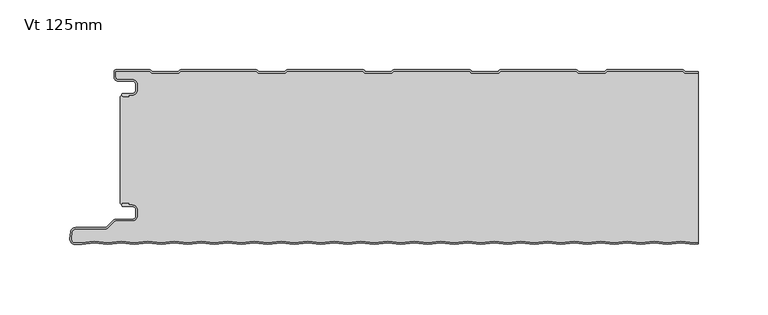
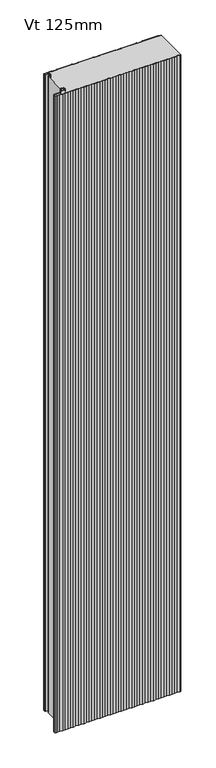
"""IFC4 building model written with IfcOpenShell, lengths in millimetres: plate geometry, KIP-MEX-KSS-1067-R19-CP-Vt-MR_SL : Vt 125mm."""

from ifc_helpers import new_model, si_unit, point, frame, frame_2d, origin, origin_with_axes, place, context, project, spatial, polyline, circle_curve, trimmed, segment, composite_curve, outline, extrude, source, transform, mapped, element, save
from ifc_brep_helpers import plane_surface, cylinder_surface, revolved_surface, advanced_brep


def vt_125mm_50f7fd7f(model_context):
    return source(origin(), model_context, "Body", "SolidModel", [
        advanced_brep(
        [(-204.468691, -17.0015159, 2400.0), (-205.4686883, -18.0015191, 2400.0), (-204.468691, -19.0015105, 2400.0), (-200.4684874, -19.0015105, 2400.0), (-200.4684874, -18.0015159, 2400.0), (-197.7762776, -18.0015159, 2400.0), (-194.4762819, -14.7015202, 2400.0), (-194.4762819, -10.301529, 2400.0), (-197.7762774, -7.0015335, 2400.0), (-208.1962563, -7.0015335, 2400.0), (-209.9662505, -5.2315393, 2400.0), (-209.9662505, -0.9999916, 2400.0), (-185.4659738, -0.9999916, 2400.0), (-184.0803312, -2.2002307, 2400.0), (-164.7051649, -2.2002307, 2400.0), (-163.319532, -1.0, 2400.0), (-109.2661166, -1.0, 2400.0), (-107.8804836, -2.2002307, 2400.0), (-88.5053173, -2.2002307, 2400.0), (-87.1196844, -1.0, 2400.0), (-33.066269, -1.0, 2400.0), (-31.680636, -2.2002307, 2400.0), (-12.3054697, -2.2002307, 2400.0), (-10.9198368, -1.0, 2400.0), (43.1335786, -1.0, 2400.0), (44.5192116, -2.2002307, 2400.0), (63.8943779, -2.2002307, 2400.0), (65.2800108, -1.0, 2400.0), (119.3334262, -1.0, 2400.0), (120.7190592, -2.2002307, 2400.0), (140.0942255, -2.2002307, 2400.0), (141.4798584, -1.0, 2400.0), (195.5332738, -1.0, 2400.0), (196.9189068, -2.2002307, 2400.0), (206.4999998, -2.2002307, 2400.0), (206.4999998, -1.2002307, 2400.0), (197.2917872, -1.2002307, 2400.0), (196.3007396, -0.3417885, 2400.0), (195.3841227, 0.0, 2400.0), (141.6290096, 0.0, 2400.0), (140.7123927, -0.3417885, 2400.0), (139.7213451, -1.2002307, 2400.0), (121.0919396, -1.2002307, 2400.0), (120.100892, -0.3417885, 2400.0), (119.1842751, 0.0, 2400.0), (65.429162, 0.0, 2400.0), (64.5125451, -0.3417885, 2400.0), (63.5214975, -1.2002307, 2400.0), (44.892092, -1.2002307, 2400.0), (43.9010444, -0.3417885, 2400.0), (42.9844275, 0.0, 2400.0), (-10.7706856, 0.0, 2400.0), (-11.6873025, -0.3417885, 2400.0), (-12.6783501, -1.2002307, 2400.0), (-31.3077556, -1.2002307, 2400.0), (-32.2988032, -0.3417885, 2400.0), (-33.2154201, 0.0, 2400.0), (-86.9705332, 0.0, 2400.0), (-87.8871501, -0.3417885, 2400.0), (-88.8781977, -1.2002307, 2400.0), (-107.5076032, -1.2002307, 2400.0), (-108.4986508, -0.3417885, 2400.0), (-109.4152677, 0.0, 2400.0), (-163.1703808, 0.0, 2400.0), (-164.0869977, -0.3417885, 2400.0), (-165.0780453, -1.2002307, 2400.0), (-183.7074508, -1.2002307, 2400.0), (-184.6984984, -0.3417885, 2400.0), (-185.6152067, 0.0, 2400.0), (-209.5662543, 8.4e-06, 2400.0), (-210.9662505, -1.3999878, 2400.0), (-210.9662505, -5.2315393, 2400.0), (-208.1962563, -8.0015335, 2400.0), (-197.7762774, -8.0015335, 2400.0), (-195.4762819, -10.301529, 2400.0), (-195.4762819, -14.7015202, 2400.0), (-197.7762776, -17.0015159, 2400.0), (-204.468691, -17.0015159, 0.0), (-197.7762776, -17.0015159, 0.0), (-195.4762819, -14.7015202, 0.0), (-195.4762819, -10.301529, 0.0), (-197.7762774, -8.0015335, 0.0), (-208.1962563, -8.0015335, 0.0), (-210.9662505, -5.2315393, 0.0), (-210.9662505, -1.3999878, 0.0), (-209.5662543, 8.4e-06, 0.0), (-185.6151153, 8.4e-06, 0.0), (-184.6984984, -0.3417885, 0.0), (-183.7074508, -1.2002307, 0.0), (-165.0780453, -1.2002307, 0.0), (-164.0869977, -0.3417885, 0.0), (-163.1703808, 0.0, 0.0), (-109.4152677, 0.0, 0.0), (-108.4986508, -0.3417885, 0.0), (-107.5076032, -1.2002307, 0.0), (-88.8781977, -1.2002307, 0.0), (-87.8871501, -0.3417885, 0.0), (-86.9705332, 0.0, 0.0), (-33.2154201, 0.0, 0.0), (-32.2988032, -0.3417885, 0.0), (-31.3077556, -1.2002307, 0.0), (-12.6783501, -1.2002307, 0.0), (-11.6873025, -0.3417885, 0.0), (-10.7706856, 0.0, 0.0), (42.9844275, 0.0, 0.0), (43.9010444, -0.3417885, 0.0), (44.892092, -1.2002307, 0.0), (63.5214975, -1.2002307, 0.0), (64.5125451, -0.3417885, 0.0), (65.429162, 0.0, 0.0), (119.1842751, 0.0, 0.0), (120.100892, -0.3417885, 0.0), (121.0919396, -1.2002307, 0.0), (139.7213451, -1.2002307, 0.0), (140.7123927, -0.3417885, 0.0), (141.6290096, 0.0, 0.0), (195.3841227, 0.0, 0.0), (196.3007396, -0.3417885, 0.0), (197.2917872, -1.2002307, 0.0), (206.4999998, -1.2002307, 0.0), (206.4999998, -2.2002307, 0.0), (196.9189068, -2.2002307, 0.0), (195.5332738, -1.0, 0.0), (141.4798584, -1.0, 0.0), (140.0942255, -2.2002307, 0.0), (120.7190592, -2.2002307, 0.0), (119.3334262, -1.0, 0.0), (65.2800108, -1.0, 0.0), (63.8943779, -2.2002307, 0.0), (44.5192116, -2.2002307, 0.0), (43.1335786, -1.0, 0.0), (-10.9198368, -1.0, 0.0), (-12.3054697, -2.2002307, 0.0), (-31.680636, -2.2002307, 0.0), (-33.066269, -1.0, 0.0), (-87.1196844, -1.0, 0.0), (-88.5053173, -2.2002307, 0.0), (-107.8804836, -2.2002307, 0.0), (-109.2661166, -1.0, 0.0), (-163.319532, -1.0, 0.0), (-164.7051649, -2.2002307, 0.0), (-184.0803312, -2.2002307, 0.0), (-185.4659738, -0.9999916, 0.0), (-209.9662505, -0.9999916, 0.0), (-209.9662505, -5.2315393, 0.0), (-208.1962563, -7.0015335, 0.0), (-197.7762774, -7.0015335, 0.0), (-194.4762819, -10.301529, 0.0), (-194.4762819, -14.7015202, 0.0), (-197.7762776, -18.0015159, 0.0), (-200.4684874, -18.0015159, 0.0), (-200.4684874, -19.0015105, 0.0), (-204.468691, -19.0015105, 0.0), (-205.4686882, -18.0015192, 0.0)],
        [
            (0, 1, circle_curve(frame((-204.468691, -18.0015132, 2400.0), z_axis=(0.0, 0.0, 1.0), x_axis=(1.0, 0.0, 0.0)), 0.9999973)),
            (1, 2, circle_curve(frame((-204.468691, -18.0015133, 2400.0), z_axis=(0.0, 0.0, 1.0), x_axis=(1.0, 0.0, 0.0)), 0.9999972)),
            (2, 3),
            (3, 4),
            (4, 5),
            (5, 6, circle_curve(frame((-197.7762776, -14.7015202, 2400.0), z_axis=(0.0, 0.0, 1.0), x_axis=(1.0, 0.0, 0.0)), 3.2999957)),
            (6, 7),
            (7, 8, circle_curve(frame((-197.7762774, -10.301529, 2400.0), z_axis=(0.0, 0.0, 1.0), x_axis=(1.0, 0.0, 0.0)), 3.2999955)),
            (8, 9),
            (9, 10, circle_curve(frame((-208.1962563, -5.2315393, 2400.0), z_axis=(0.0, 0.0, -1.0), x_axis=(1.0, 0.0, 0.0)), 1.7699942)),
            (10, 11),
            (11, 12),
            (12, 13),
            (13, 14),
            (14, 15),
            (15, 16),
            (16, 17),
            (17, 18),
            (18, 19),
            (19, 20),
            (20, 21),
            (21, 22),
            (22, 23),
            (23, 24),
            (24, 25),
            (25, 26),
            (26, 27),
            (27, 28),
            (28, 29),
            (29, 30),
            (30, 31),
            (31, 32),
            (32, 33),
            (33, 34),
            (34, 35),
            (35, 36),
            (36, 37),
            (37, 38, circle_curve(frame((195.3841227, -1.3999972, 2400.0), z_axis=(0.0, 0.0, 1.0), x_axis=(1.0, 0.0, 0.0)), 1.3999972)),
            (38, 39),
            (39, 40, circle_curve(frame((141.6290096, -1.3999972, 2400.0), z_axis=(0.0, 0.0, 1.0), x_axis=(1.0, 0.0, 0.0)), 1.3999972)),
            (40, 41),
            (41, 42),
            (42, 43),
            (43, 44, circle_curve(frame((119.1842751, -1.3999972, 2400.0), z_axis=(0.0, 0.0, 1.0), x_axis=(1.0, 0.0, 0.0)), 1.3999972)),
            (44, 45),
            (45, 46, circle_curve(frame((65.429162, -1.3999972, 2400.0), z_axis=(0.0, 0.0, 1.0), x_axis=(1.0, 0.0, 0.0)), 1.3999972)),
            (46, 47),
            (47, 48),
            (48, 49),
            (49, 50, circle_curve(frame((42.9844275, -1.3999972, 2400.0), z_axis=(0.0, 0.0, 1.0), x_axis=(1.0, 0.0, 0.0)), 1.3999972)),
            (50, 51),
            (51, 52, circle_curve(frame((-10.7706856, -1.3999972, 2400.0), z_axis=(0.0, 0.0, 1.0), x_axis=(1.0, 0.0, 0.0)), 1.3999972)),
            (52, 53),
            (53, 54),
            (54, 55),
            (55, 56, circle_curve(frame((-33.2154201, -1.3999972, 2400.0), z_axis=(0.0, 0.0, 1.0), x_axis=(1.0, 0.0, 0.0)), 1.3999972)),
            (56, 57),
            (57, 58, circle_curve(frame((-86.9705332, -1.3999972, 2400.0), z_axis=(0.0, 0.0, 1.0), x_axis=(1.0, 0.0, 0.0)), 1.3999972)),
            (58, 59),
            (59, 60),
            (60, 61),
            (61, 62, circle_curve(frame((-109.4152677, -1.3999972, 2400.0), z_axis=(0.0, 0.0, 1.0), x_axis=(1.0, 0.0, 0.0)), 1.3999972)),
            (62, 63),
            (63, 64, circle_curve(frame((-163.1703808, -1.3999972, 2400.0), z_axis=(0.0, 0.0, 1.0), x_axis=(1.0, 0.0, 0.0)), 1.3999972)),
            (64, 65),
            (65, 66),
            (66, 67),
            (67, 68, circle_curve(frame((-185.6151153, -1.3999972, 2400.0), z_axis=(0.0, 0.0, 1.0), x_axis=(1.0, 0.0, 0.0)), 1.3999972)),
            (68, 69),
            (69, 70, circle_curve(frame((-209.5662543, -1.3999878, 2400.0), z_axis=(0.0, 0.0, 1.0), x_axis=(1.0, 0.0, 0.0)), 1.3999962)),
            (70, 71),
            (71, 72, circle_curve(frame((-208.1962563, -5.2315393, 2400.0), z_axis=(0.0, 0.0, 1.0), x_axis=(1.0, 0.0, 0.0)), 2.7699942)),
            (72, 73),
            (73, 74, circle_curve(frame((-197.7762774, -10.301529, 2400.0), z_axis=(0.0, 0.0, -1.0), x_axis=(1.0, 0.0, 0.0)), 2.2999955)),
            (74, 75),
            (75, 76, circle_curve(frame((-197.7762776, -14.7015202, 2400.0), z_axis=(0.0, 0.0, -1.0), x_axis=(1.0, 0.0, 0.0)), 2.2999957)),
            (76, 0),
            (77, 78),
            (78, 79, circle_curve(frame((-197.7762776, -14.7015202, 0.0), z_axis=(0.0, 0.0, 1.0), x_axis=(1.0, 0.0, 0.0)), 2.2999957)),
            (79, 80),
            (80, 81, circle_curve(frame((-197.7762774, -10.301529, 0.0), z_axis=(0.0, 0.0, 1.0), x_axis=(1.0, 0.0, 0.0)), 2.2999955)),
            (81, 82),
            (82, 83, circle_curve(frame((-208.1962563, -5.2315393, 0.0), z_axis=(0.0, 0.0, -1.0), x_axis=(1.0, 0.0, 0.0)), 2.7699942)),
            (83, 84),
            (84, 85, circle_curve(frame((-209.5662543, -1.3999878, 0.0), z_axis=(0.0, 0.0, -1.0), x_axis=(1.0, 0.0, 0.0)), 1.3999962)),
            (85, 86),
            (86, 87, circle_curve(frame((-185.6151153, -1.3999972, 0.0), z_axis=(0.0, 0.0, -1.0), x_axis=(1.0, 0.0, 0.0)), 1.3999972)),
            (87, 88),
            (88, 89),
            (89, 90),
            (90, 91, circle_curve(frame((-163.1703808, -1.3999972, 0.0), z_axis=(0.0, 0.0, -1.0), x_axis=(1.0, 0.0, 0.0)), 1.3999972)),
            (91, 92),
            (92, 93, circle_curve(frame((-109.4152677, -1.3999972, 0.0), z_axis=(0.0, 0.0, -1.0), x_axis=(1.0, 0.0, 0.0)), 1.3999972)),
            (93, 94),
            (94, 95),
            (95, 96),
            (96, 97, circle_curve(frame((-86.9705332, -1.3999972, 0.0), z_axis=(0.0, 0.0, -1.0), x_axis=(1.0, 0.0, 0.0)), 1.3999972)),
            (97, 98),
            (98, 99, circle_curve(frame((-33.2154201, -1.3999972, 0.0), z_axis=(0.0, 0.0, -1.0), x_axis=(1.0, 0.0, 0.0)), 1.3999972)),
            (99, 100),
            (100, 101),
            (101, 102),
            (102, 103, circle_curve(frame((-10.7706856, -1.3999972, 0.0), z_axis=(0.0, 0.0, -1.0), x_axis=(1.0, 0.0, 0.0)), 1.3999972)),
            (103, 104),
            (104, 105, circle_curve(frame((42.9844275, -1.3999972, 0.0), z_axis=(0.0, 0.0, -1.0), x_axis=(1.0, 0.0, 0.0)), 1.3999972)),
            (105, 106),
            (106, 107),
            (107, 108),
            (108, 109, circle_curve(frame((65.429162, -1.3999972, 0.0), z_axis=(0.0, 0.0, -1.0), x_axis=(1.0, 0.0, 0.0)), 1.3999972)),
            (109, 110),
            (110, 111, circle_curve(frame((119.1842751, -1.3999972, 0.0), z_axis=(0.0, 0.0, -1.0), x_axis=(1.0, 0.0, 0.0)), 1.3999972)),
            (111, 112),
            (112, 113),
            (113, 114),
            (114, 115, circle_curve(frame((141.6290096, -1.3999972, 0.0), z_axis=(0.0, 0.0, -1.0), x_axis=(1.0, 0.0, 0.0)), 1.3999972)),
            (115, 116),
            (116, 117, circle_curve(frame((195.3841227, -1.3999972, 0.0), z_axis=(0.0, 0.0, -1.0), x_axis=(1.0, 0.0, 0.0)), 1.3999972)),
            (117, 118),
            (118, 119),
            (119, 120),
            (120, 121),
            (121, 122),
            (122, 123),
            (123, 124),
            (124, 125),
            (125, 126),
            (126, 127),
            (127, 128),
            (128, 129),
            (129, 130),
            (130, 131),
            (131, 132),
            (132, 133),
            (133, 134),
            (134, 135),
            (135, 136),
            (136, 137),
            (137, 138),
            (138, 139),
            (139, 140),
            (140, 141),
            (141, 142),
            (142, 143),
            (143, 144),
            (144, 145, circle_curve(frame((-208.1962563, -5.2315393, 0.0), z_axis=(0.0, 0.0, 1.0), x_axis=(1.0, 0.0, 0.0)), 1.7699942)),
            (145, 146),
            (146, 147, circle_curve(frame((-197.7762774, -10.301529, 0.0), z_axis=(0.0, 0.0, -1.0), x_axis=(1.0, 0.0, 0.0)), 3.2999955)),
            (147, 148),
            (148, 149, circle_curve(frame((-197.7762776, -14.7015202, 0.0), z_axis=(0.0, 0.0, -1.0), x_axis=(1.0, 0.0, 0.0)), 3.2999957)),
            (149, 150),
            (150, 151),
            (151, 152),
            (152, 153, circle_curve(frame((-204.468691, -18.0015133, 0.0), z_axis=(0.0, 0.0, -1.0), x_axis=(1.0, 0.0, 0.0)), 0.9999972)),
            (153, 77, circle_curve(frame((-204.468691, -18.0015132, 0.0), z_axis=(0.0, 0.0, -1.0), x_axis=(1.0, 0.0, 0.0)), 0.9999973)),
            (76, 78),
            (77, 0),
            (75, 79),
            (74, 80),
            (73, 81),
            (72, 82),
            (71, 83),
            (70, 84),
            (69, 85),
            (68, 86),
            (67, 87),
            (66, 88),
            (65, 89),
            (64, 90),
            (63, 91),
            (62, 92),
            (61, 93),
            (60, 94),
            (59, 95),
            (58, 96),
            (57, 97),
            (56, 98),
            (55, 99),
            (54, 100),
            (53, 101),
            (52, 102),
            (51, 103),
            (50, 104),
            (49, 105),
            (48, 106),
            (47, 107),
            (46, 108),
            (45, 109),
            (44, 110),
            (43, 111),
            (42, 112),
            (41, 113),
            (40, 114),
            (39, 115),
            (38, 116),
            (37, 117),
            (36, 118),
            (35, 119),
            (120, 34),
            (33, 121),
            (32, 122),
            (31, 123),
            (30, 124),
            (29, 125),
            (28, 126),
            (27, 127),
            (26, 128),
            (25, 129),
            (24, 130),
            (23, 131),
            (22, 132),
            (21, 133),
            (20, 134),
            (19, 135),
            (18, 136),
            (17, 137),
            (16, 138),
            (15, 139),
            (14, 140),
            (13, 141),
            (12, 142),
            (11, 143),
            (10, 144),
            (9, 145),
            (8, 146),
            (7, 147),
            (6, 148),
            (5, 149),
            (4, 150),
            (3, 151),
            (2, 152),
            (1, 153),
        ],
        [
            plane_surface(frame((326.9000002, 0.0, 2400.0), z_axis=(0.0, 0.0, 1.0), x_axis=(0.0, 1.0, 0.0))),
            plane_surface(frame((326.9000002, 0.0, 0.0), z_axis=(0.0, 0.0, -1.0), x_axis=(0.0, 1.0, 0.0))),
            plane_surface(frame((-204.468691, -17.0015159, 2400.0), z_axis=(0.0, 1.0, 0.0), x_axis=(0.0, 0.0, -1.0))),
            revolved_surface(polyline([(-195.47628189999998, -14.7015202, 0.0), (-195.47628189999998, -14.7015202, 2400.0)]), (-197.7762776, -14.7015202, 2400.0), (0.0, 0.0, -1.0)),
            plane_surface(frame((-195.4762819, -14.7015202, 2400.0), z_axis=(-1.0, 0.0, 0.0), x_axis=(0.0, 0.0, -1.0))),
            revolved_surface(polyline([(-195.4762819, -10.301529, 0.0), (-195.4762819, -10.301529, 2400.0)]), (-197.7762774, -10.301529, 2400.0), (0.0, 0.0, -1.0)),
            plane_surface(frame((-197.7762774, -8.0015335, 2400.0), z_axis=(0.0, -1.0, 0.0), x_axis=(0.0, 0.0, -1.0))),
            cylinder_surface(frame((-208.1962563, -5.2315393, 2400.0), z_axis=(0.0, 0.0, 1.0), x_axis=(1.0, 0.0, 0.0)), 2.7699942),
            plane_surface(frame((-210.9662505, -5.2315393, 2400.0), z_axis=(-1.0, 0.0, 0.0), x_axis=(0.0, 0.0, -1.0))),
            cylinder_surface(frame((-209.5662543, -1.3999878, 2400.0), z_axis=(0.0, 0.0, 1.0), x_axis=(1.0, 0.0, 0.0)), 1.3999962),
            plane_surface(frame((-209.5662543, 8.4e-06, 2400.0), z_axis=(0.0, 1.0, 0.0), x_axis=(0.0, 0.0, -1.0))),
            cylinder_surface(frame((-185.6151153, -1.3999972, 2400.0), z_axis=(0.0, 0.0, 1.0), x_axis=(1.0, 0.0, 0.0)), 1.3999972),
            plane_surface(frame((-184.6984984, -0.3417885, 2400.0), z_axis=(0.6547276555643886, 0.755864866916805, 0.0), x_axis=(0.0, 0.0, -1.0))),
            plane_surface(frame((-174.3927481, -1.2002307, 2400.0), z_axis=(0.0, 1.0, 0.0), x_axis=(0.0, 0.0, -1.0))),
            plane_surface(frame((-165.0780453, -1.2002307, 2400.0), z_axis=(-0.6547276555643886, 0.755864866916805, 0.0), x_axis=(0.0, 0.0, -1.0))),
            cylinder_surface(frame((-163.1703808, -1.3999972, 2400.0), z_axis=(0.0, 0.0, 1.0), x_axis=(1.0, 0.0, 0.0)), 1.3999972),
            plane_surface(frame((-163.1703808, 0.0, 2400.0), z_axis=(0.0, 1.0, 0.0), x_axis=(0.0, 0.0, -1.0))),
            cylinder_surface(frame((-109.4152677, -1.3999972, 2400.0), z_axis=(0.0, 0.0, 1.0), x_axis=(1.0, 0.0, 0.0)), 1.3999972),
            plane_surface(frame((-108.4986508, -0.3417885, 2400.0), z_axis=(0.6547276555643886, 0.755864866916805, 0.0), x_axis=(0.0, 0.0, -1.0))),
            plane_surface(frame((-98.1929005, -1.2002307, 2400.0), z_axis=(0.0, 1.0, 0.0), x_axis=(0.0, 0.0, -1.0))),
            plane_surface(frame((-88.8781977, -1.2002307, 2400.0), z_axis=(-0.6547276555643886, 0.755864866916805, 0.0), x_axis=(0.0, 0.0, -1.0))),
            cylinder_surface(frame((-86.9705332, -1.3999972, 2400.0), z_axis=(0.0, 0.0, 1.0), x_axis=(1.0, 0.0, 0.0)), 1.3999972),
            plane_surface(frame((-86.9705332, 0.0, 2400.0), z_axis=(0.0, 1.0, 0.0), x_axis=(0.0, 0.0, -1.0))),
            cylinder_surface(frame((-33.2154201, -1.3999972, 2400.0), z_axis=(0.0, 0.0, 1.0), x_axis=(1.0, 0.0, 0.0)), 1.3999972),
            plane_surface(frame((-32.2988032, -0.3417885, 2400.0), z_axis=(0.6547276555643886, 0.755864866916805, 0.0), x_axis=(0.0, 0.0, -1.0))),
            plane_surface(frame((-21.9930529, -1.2002307, 2400.0), z_axis=(0.0, 1.0, 0.0), x_axis=(0.0, 0.0, -1.0))),
            plane_surface(frame((-12.6783501, -1.2002307, 2400.0), z_axis=(-0.6547276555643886, 0.755864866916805, 0.0), x_axis=(0.0, 0.0, -1.0))),
            cylinder_surface(frame((-10.7706856, -1.3999972, 2400.0), z_axis=(0.0, 0.0, 1.0), x_axis=(1.0, 0.0, 0.0)), 1.3999972),
            plane_surface(frame((-10.7706856, 0.0, 2400.0), z_axis=(0.0, 1.0, 0.0), x_axis=(0.0, 0.0, -1.0))),
            cylinder_surface(frame((42.9844275, -1.3999972, 2400.0), z_axis=(0.0, 0.0, 1.0), x_axis=(1.0, 0.0, 0.0)), 1.3999972),
            plane_surface(frame((43.9010444, -0.3417885, 2400.0), z_axis=(0.6547276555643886, 0.755864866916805, 0.0), x_axis=(0.0, 0.0, -1.0))),
            plane_surface(frame((54.2067947, -1.2002307, 2400.0), z_axis=(0.0, 1.0, 0.0), x_axis=(0.0, 0.0, -1.0))),
            plane_surface(frame((63.5214975, -1.2002307, 2400.0), z_axis=(-0.6547276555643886, 0.755864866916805, 0.0), x_axis=(0.0, 0.0, -1.0))),
            cylinder_surface(frame((65.429162, -1.3999972, 2400.0), z_axis=(0.0, 0.0, 1.0), x_axis=(1.0, 0.0, 0.0)), 1.3999972),
            plane_surface(frame((65.429162, 0.0, 2400.0), z_axis=(0.0, 1.0, 0.0), x_axis=(0.0, 0.0, -1.0))),
            cylinder_surface(frame((119.1842751, -1.3999972, 2400.0), z_axis=(0.0, 0.0, 1.0), x_axis=(1.0, 0.0, 0.0)), 1.3999972),
            plane_surface(frame((120.100892, -0.3417885, 2400.0), z_axis=(0.6547276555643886, 0.755864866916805, 0.0), x_axis=(0.0, 0.0, -1.0))),
            plane_surface(frame((130.4066423, -1.2002307, 2400.0), z_axis=(0.0, 1.0, 0.0), x_axis=(0.0, 0.0, -1.0))),
            plane_surface(frame((139.7213451, -1.2002307, 2400.0), z_axis=(-0.6547276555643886, 0.755864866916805, 0.0), x_axis=(0.0, 0.0, -1.0))),
            cylinder_surface(frame((141.6290096, -1.3999972, 2400.0), z_axis=(0.0, 0.0, 1.0), x_axis=(1.0, 0.0, 0.0)), 1.3999972),
            plane_surface(frame((141.6290096, 0.0, 2400.0), z_axis=(0.0, 1.0, 0.0), x_axis=(0.0, 0.0, -1.0))),
            cylinder_surface(frame((195.3841227, -1.3999972, 2400.0), z_axis=(0.0, 0.0, 1.0), x_axis=(1.0, 0.0, 0.0)), 1.3999972),
            plane_surface(frame((196.3007396, -0.3417885, 2400.0), z_axis=(0.6547276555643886, 0.755864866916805, 0.0), x_axis=(0.0, 0.0, -1.0))),
            plane_surface(frame((206.6064899, -1.2002307, 2400.0), z_axis=(0.0, 1.0, 0.0), x_axis=(0.0, 0.0, -1.0))),
            plane_surface(frame((216.2940731, -2.2002307, 2400.0), z_axis=(0.0, -1.0, 0.0), x_axis=(0.0, 0.0, -1.0))),
            plane_surface(frame((196.9189068, -2.2002307, 2400.0), z_axis=(-0.6547276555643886, -0.755864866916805, 0.0), x_axis=(0.0, 0.0, -1.0))),
            plane_surface(frame((195.5332738, -1.0, 2400.0), z_axis=(0.0, -1.0, 0.0), x_axis=(0.0, 0.0, -1.0))),
            plane_surface(frame((141.4798584, -1.0, 2400.0), z_axis=(0.6547276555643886, -0.755864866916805, 0.0), x_axis=(0.0, 0.0, -1.0))),
            plane_surface(frame((140.0942255, -2.2002307, 2400.0), z_axis=(0.0, -1.0, 0.0), x_axis=(0.0, 0.0, -1.0))),
            plane_surface(frame((120.7190592, -2.2002307, 2400.0), z_axis=(-0.6547276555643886, -0.755864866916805, 0.0), x_axis=(0.0, 0.0, -1.0))),
            plane_surface(frame((119.3334262, -1.0, 2400.0), z_axis=(0.0, -1.0, 0.0), x_axis=(0.0, 0.0, -1.0))),
            plane_surface(frame((65.2800108, -1.0, 2400.0), z_axis=(0.6547276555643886, -0.755864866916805, 0.0), x_axis=(0.0, 0.0, -1.0))),
            plane_surface(frame((63.8943779, -2.2002307, 2400.0), z_axis=(0.0, -1.0, 0.0), x_axis=(0.0, 0.0, -1.0))),
            plane_surface(frame((44.5192116, -2.2002307, 2400.0), z_axis=(-0.6547276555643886, -0.755864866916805, 0.0), x_axis=(0.0, 0.0, -1.0))),
            plane_surface(frame((43.1335786, -1.0, 2400.0), z_axis=(0.0, -1.0, 0.0), x_axis=(0.0, 0.0, -1.0))),
            plane_surface(frame((-10.9198368, -1.0, 2400.0), z_axis=(0.6547276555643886, -0.755864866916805, 0.0), x_axis=(0.0, 0.0, -1.0))),
            plane_surface(frame((-12.3054697, -2.2002307, 2400.0), z_axis=(0.0, -1.0, 0.0), x_axis=(0.0, 0.0, -1.0))),
            plane_surface(frame((-31.680636, -2.2002307, 2400.0), z_axis=(-0.6547276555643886, -0.755864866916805, 0.0), x_axis=(0.0, 0.0, -1.0))),
            plane_surface(frame((-33.066269, -1.0, 2400.0), z_axis=(0.0, -1.0, 0.0), x_axis=(0.0, 0.0, -1.0))),
            plane_surface(frame((-87.1196844, -1.0, 2400.0), z_axis=(0.6547276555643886, -0.755864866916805, 0.0), x_axis=(0.0, 0.0, -1.0))),
            plane_surface(frame((-88.5053173, -2.2002307, 2400.0), z_axis=(0.0, -1.0, 0.0), x_axis=(0.0, 0.0, -1.0))),
            plane_surface(frame((-107.8804836, -2.2002307, 2400.0), z_axis=(-0.6547276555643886, -0.755864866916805, 0.0), x_axis=(0.0, 0.0, -1.0))),
            plane_surface(frame((-109.2661166, -1.0, 2400.0), z_axis=(0.0, -1.0, 0.0), x_axis=(0.0, 0.0, -1.0))),
            plane_surface(frame((-163.319532, -1.0, 2400.0), z_axis=(0.6547276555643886, -0.755864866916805, 0.0), x_axis=(0.0, 0.0, -1.0))),
            plane_surface(frame((-164.7051649, -2.2002307, 2400.0), z_axis=(0.0, -1.0, 0.0), x_axis=(0.0, 0.0, -1.0))),
            plane_surface(frame((-184.0803312, -2.2002307, 2400.0), z_axis=(-0.6547276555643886, -0.755864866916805, 0.0), x_axis=(0.0, 0.0, -1.0))),
            plane_surface(frame((-185.4659738, -0.9999916, 2400.0), z_axis=(0.0, -1.0, 0.0), x_axis=(0.0, 0.0, -1.0))),
            plane_surface(frame((-209.9662505, -0.9999916, 2400.0), z_axis=(1.0, 0.0, 0.0), x_axis=(0.0, 0.0, -1.0))),
            revolved_surface(polyline([(-206.42626209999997, -5.2315393, 0.0), (-206.42626209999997, -5.2315393, 2400.0)]), (-208.1962563, -5.2315393, 2400.0), (0.0, 0.0, -1.0)),
            plane_surface(frame((-208.1962563, -7.0015335, 2400.0), z_axis=(0.0, 1.0, 0.0), x_axis=(0.0, 0.0, -1.0))),
            cylinder_surface(frame((-197.7762774, -10.301529, 2400.0), z_axis=(0.0, 0.0, 1.0), x_axis=(1.0, 0.0, 0.0)), 3.2999955),
            plane_surface(frame((-194.4762819, -10.301529, 2400.0), z_axis=(1.0, 0.0, 0.0), x_axis=(0.0, 0.0, -1.0))),
            cylinder_surface(frame((-197.7762776, -14.7015202, 2400.0), z_axis=(0.0, 0.0, 1.0), x_axis=(1.0, 0.0, 0.0)), 3.2999957),
            plane_surface(frame((-197.7762776, -18.0015159, 2400.0), z_axis=(0.0, -1.0, 0.0), x_axis=(0.0, 0.0, -1.0))),
            plane_surface(frame((-200.4684874, -18.0015159, 2400.0), z_axis=(1.0, 0.0, 0.0), x_axis=(0.0, 0.0, -1.0))),
            plane_surface(frame((-200.4684874, -19.0015105, 2400.0), z_axis=(0.0, -1.0, 0.0), x_axis=(0.0, 0.0, -1.0))),
            cylinder_surface(frame((-204.468691, -18.0015133, 2400.0), z_axis=(0.0, 0.0, 1.0), x_axis=(1.0, 0.0, 0.0)), 0.9999972),
            cylinder_surface(frame((-204.468691, -18.0015132, 2400.0), z_axis=(0.0, 0.0, 1.0), x_axis=(1.0, 0.0, 0.0)), 0.9999973),
            plane_surface(frame((206.4999998, -135.0, 2400.0), z_axis=(1.0, 0.0, 0.0), x_axis=(0.0, 0.0, -1.0))),
        ],
        [
            (0, [[1, 2, 3, 4, 5, 6, 7, 8, 9, 10, 11, 12, 13, 14, 15, 16, 17, 18, 19, 20, 21, 22, 23, 24, 25, 26, 27, 28, 29, 30, 31, 32, 33, 34, 35, 36, 37, 38, 39, 40, 41, 42, 43, 44, 45, 46, 47, 48, 49, 50, 51, 52, 53, 54, 55, 56, 57, 58, 59, 60, 61, 62, 63, 64, 65, 66, 67, 68, 69, 70, 71, 72, 73, 74, 75, 76, 77]]),
            (1, [[78, 79, 80, 81, 82, 83, 84, 85, 86, 87, 88, 89, 90, 91, 92, 93, 94, 95, 96, 97, 98, 99, 100, 101, 102, 103, 104, 105, 106, 107, 108, 109, 110, 111, 112, 113, 114, 115, 116, 117, 118, 119, 120, 121, 122, 123, 124, 125, 126, 127, 128, 129, 130, 131, 132, 133, 134, 135, 136, 137, 138, 139, 140, 141, 142, 143, 144, 145, 146, 147, 148, 149, 150, 151, 152, 153, 154]]),
            (2, [[155, -78, 156, -77]]),
            (3, [[157, -79, -155, -76]]),
            (4, [[158, -80, -157, -75]]),
            (5, [[159, -81, -158, -74]]),
            (6, [[160, -82, -159, -73]]),
            (7, [[161, -83, -160, -72]]),
            (8, [[162, -84, -161, -71]]),
            (9, [[163, -85, -162, -70]]),
            (10, [[164, -86, -163, -69]]),
            (11, [[165, -87, -164, -68]]),
            (12, [[166, -88, -165, -67]]),
            (13, [[167, -89, -166, -66]]),
            (14, [[168, -90, -167, -65]]),
            (15, [[169, -91, -168, -64]]),
            (16, [[170, -92, -169, -63]]),
            (17, [[171, -93, -170, -62]]),
            (18, [[172, -94, -171, -61]]),
            (19, [[173, -95, -172, -60]]),
            (20, [[174, -96, -173, -59]]),
            (21, [[175, -97, -174, -58]]),
            (22, [[176, -98, -175, -57]]),
            (23, [[177, -99, -176, -56]]),
            (24, [[178, -100, -177, -55]]),
            (25, [[179, -101, -178, -54]]),
            (26, [[180, -102, -179, -53]]),
            (27, [[181, -103, -180, -52]]),
            (28, [[182, -104, -181, -51]]),
            (29, [[183, -105, -182, -50]]),
            (30, [[184, -106, -183, -49]]),
            (31, [[185, -107, -184, -48]]),
            (32, [[186, -108, -185, -47]]),
            (33, [[187, -109, -186, -46]]),
            (34, [[188, -110, -187, -45]]),
            (35, [[189, -111, -188, -44]]),
            (36, [[190, -112, -189, -43]]),
            (37, [[191, -113, -190, -42]]),
            (38, [[192, -114, -191, -41]]),
            (39, [[193, -115, -192, -40]]),
            (40, [[194, -116, -193, -39]]),
            (41, [[195, -117, -194, -38]]),
            (42, [[196, -118, -195, -37]]),
            (43, [[-36, 197, -119, -196]]),
            (44, [[-121, 198, -34, 199]]),
            (45, [[200, -122, -199, -33]]),
            (46, [[201, -123, -200, -32]]),
            (47, [[202, -124, -201, -31]]),
            (48, [[203, -125, -202, -30]]),
            (49, [[204, -126, -203, -29]]),
            (50, [[205, -127, -204, -28]]),
            (51, [[206, -128, -205, -27]]),
            (52, [[207, -129, -206, -26]]),
            (53, [[208, -130, -207, -25]]),
            (54, [[209, -131, -208, -24]]),
            (55, [[210, -132, -209, -23]]),
            (56, [[211, -133, -210, -22]]),
            (57, [[212, -134, -211, -21]]),
            (58, [[213, -135, -212, -20]]),
            (59, [[214, -136, -213, -19]]),
            (60, [[215, -137, -214, -18]]),
            (61, [[216, -138, -215, -17]]),
            (62, [[217, -139, -216, -16]]),
            (63, [[218, -140, -217, -15]]),
            (64, [[219, -141, -218, -14]]),
            (65, [[220, -142, -219, -13]]),
            (66, [[221, -143, -220, -12]]),
            (67, [[222, -144, -221, -11]]),
            (68, [[223, -145, -222, -10]]),
            (69, [[224, -146, -223, -9]]),
            (70, [[225, -147, -224, -8]]),
            (71, [[226, -148, -225, -7]]),
            (72, [[227, -149, -226, -6]]),
            (73, [[228, -150, -227, -5]]),
            (74, [[229, -151, -228, -4]]),
            (75, [[230, -152, -229, -3]]),
            (76, [[231, -153, -230, -2]]),
            (77, [[-156, -154, -231, -1]]),
            (78, [[-198, -120, -197, -35]]),
        ],
    ),
        extrude(outline(composite_curve([segment(polyline([(-215.4442791, -125.0), (-224.96926, -123.9411849), (-234.2447635, -124.9722676), (-238.9498353, -124.9722676)]), True, "CONTINUOUS"), segment(trimmed(circle_curve(frame_2d((-238.9521993, -121.4022755)), 3.5699929), [point((-238.9498353, -124.9722676))], [point((-242.5086073, -121.0911302))], False, "CARTESIAN"), True, "CONTINUOUS"), segment(polyline([(-242.5086073, -121.0911302), (-242.0690674, -116.0671659)]), True, "CONTINUOUS"), segment(trimmed(circle_curve(frame_2d((-238.4198391, -116.677967)), 3.6999926), [point((-242.0690674, -116.0671659))], [point((-238.4198391, -112.9779744))], False, "CARTESIAN"), True, "CONTINUOUS"), segment(polyline([(-238.4198391, -112.9779744), (-217.2773995, -112.9779744)]), True, "CONTINUOUS"), segment(trimmed(circle_curve(frame_2d((-217.2773995, -111.677977)), 1.2999974), [point((-217.2773995, -112.9779744))], [point((-216.3581626, -112.597214))], True, "CARTESIAN"), True, "CONTINUOUS"), segment(polyline([(-216.3581626, -112.597214), (-211.5297451, -107.7687965)]), True, "CONTINUOUS"), segment(trimmed(circle_curve(frame_2d((-209.6205606, -109.677981)), 2.6999946), [point((-211.5297451, -107.7687965))], [point((-209.6205606, -106.9779864))], False, "CARTESIAN"), True, "CONTINUOUS"), segment(polyline([(-209.6205606, -106.9779864), (-197.8096715, -106.9779864)]), True, "CONTINUOUS"), segment(trimmed(circle_curve(frame_2d((-197.8096715, -104.6279911)), 2.3499953), [point((-197.8096715, -106.9779864))], [point((-195.4596762, -104.6279911))], True, "CARTESIAN"), True, "CONTINUOUS"), segment(polyline([(-195.4596762, -104.6279911), (-195.4596762, -100.2279999)]), True, "CONTINUOUS"), segment(trimmed(circle_curve(frame_2d((-197.8096715, -100.2279999)), 2.3499953), [point((-195.4596762, -100.2279999))], [point((-197.8096715, -97.8780046))], True, "CARTESIAN"), True, "CONTINUOUS"), segment(polyline([(-197.8096715, -97.8780046), (-204.3289777, -97.8780046)]), True, "CONTINUOUS"), segment(trimmed(circle_curve(frame_2d((-204.2686906, -96.6795224)), 1.1999976), [point((-204.3289777, -97.8780046))], [point((-205.4682903, -96.6486225))], False, "CARTESIAN"), True, "CONTINUOUS"), segment(trimmed(circle_curve(frame_2d((-204.2686906, -96.6795224)), 1.1999976), [point((-205.4682903, -96.6486225))], [point((-204.267176, -95.4795257))], False, "CARTESIAN"), True, "CONTINUOUS"), segment(polyline([(-204.267176, -95.4795257), (-200.5087826, -95.4795257), (-200.5087826, -96.8780046), (-197.8096715, -96.8780046)]), True, "CONTINUOUS"), segment(trimmed(circle_curve(frame_2d((-197.8096715, -100.2279999)), 3.3499953), [point((-197.8096715, -96.8780046))], [point((-194.4596762, -100.2279999))], False, "CARTESIAN"), True, "CONTINUOUS"), segment(polyline([(-194.4596762, -100.2279999), (-194.4596762, -104.6279911)]), True, "CONTINUOUS"), segment(trimmed(circle_curve(frame_2d((-197.8096715, -104.6279911)), 3.3499953), [point((-194.4596762, -104.6279911))], [point((-197.8096715, -107.9779864))], False, "CARTESIAN"), True, "CONTINUOUS"), segment(polyline([(-197.8096715, -107.9779864), (-209.6205606, -107.9779864)]), True, "CONTINUOUS"), segment(trimmed(circle_curve(frame_2d((-209.6205606, -109.677981)), 1.6999946), [point((-209.6205606, -107.9779864))], [point((-210.8226383, -108.4759033))], True, "CARTESIAN"), True, "CONTINUOUS"), segment(polyline([(-210.8226383, -108.4759033), (-215.6510558, -113.3043208)]), True, "CONTINUOUS"), segment(trimmed(circle_curve(frame_2d((-217.2773995, -111.677977)), 2.2999974), [point((-215.6510558, -113.3043208))], [point((-217.2773995, -113.9779744))], False, "CARTESIAN"), True, "CONTINUOUS"), segment(polyline([(-217.2773995, -113.9779744), (-238.4198391, -113.9779744)]), True, "CONTINUOUS"), segment(trimmed(circle_curve(frame_2d((-238.4198391, -116.677967)), 2.6999926), [point((-238.4198391, -113.9779744))], [point((-241.0765683, -116.1965632))], True, "CARTESIAN"), True, "CONTINUOUS"), segment(polyline([(-241.0765683, -116.1965632), (-241.5124126, -121.1782859)]), True, "CONTINUOUS"), segment(trimmed(circle_curve(frame_2d((-238.9521993, -121.4022755)), 2.5699929), [point((-241.5124126, -121.1782859))], [point((-238.9501935, -123.9722676))], True, "CARTESIAN"), True, "CONTINUOUS"), segment(polyline([(-238.9501935, -123.9722676), (-234.3001738, -123.9722676), (-224.96926, -122.9350254), (-215.4442791, -123.9938405), (-205.9192981, -122.9350254), (-196.3943172, -123.9938405), (-186.8693362, -122.9350254), (-177.3443553, -123.9938405), (-167.8193743, -122.9350254), (-158.2943934, -123.9938405), (-148.7694124, -122.9350254), (-139.2444315, -123.9938405), (-129.7194505, -122.9350254), (-120.1944696, -123.9938405), (-110.6694886, -122.9350254), (-101.1445077, -123.9938405), (-91.6195267, -122.9350254), (-82.0945458, -123.9938405), (-72.5695648, -122.9350254), (-63.0445839, -123.9938405), (-53.5196029, -122.9350254), (-43.994622, -123.9938405), (-34.469641, -122.9350254), (-24.9446601, -123.9938405), (-15.4196791, -122.9350254), (-5.8946982, -123.9938405), (3.6302828, -122.9350254), (13.1552637, -123.9938405), (22.6802447, -122.9350254), (32.2052256, -123.9938405), (41.7302066, -122.9350254), (51.2551875, -123.9938405), (60.7801685, -122.9350254), (70.3051494, -123.9938405), (79.8301304, -122.9350254), (89.3551113, -123.9938405), (98.8800923, -122.9350254), (108.4050732, -123.9938405), (117.9300542, -122.9350254), (127.4550351, -123.9938405), (136.9800161, -122.9350254), (146.504997, -123.9938405), (156.029978, -122.9350254), (165.5549589, -123.9938405), (175.0799399, -122.9350254), (184.6049208, -123.9938405), (194.1299018, -122.9350254), (203.6548827, -123.9938405), (206.4999998, -123.6775718), (206.4999998, -124.6837313), (203.6548827, -125.0), (194.1299018, -123.9411849), (184.6049208, -125.0), (175.0799399, -123.9411849), (165.5549589, -125.0), (156.029978, -123.9411849), (146.504997, -125.0), (136.9800161, -123.9411849), (127.4550351, -125.0), (117.9300542, -123.9411849), (108.4050732, -125.0), (98.8800923, -123.9411849), (89.3551113, -125.0), (79.8301304, -123.9411849), (70.3051494, -125.0), (60.7801685, -123.9411849), (51.2551875, -125.0), (41.7302066, -123.9411849), (32.2052256, -125.0), (22.6802447, -123.9411849), (13.1552637, -125.0), (3.6302828, -123.9411849), (-5.8946982, -125.0), (-15.4196791, -123.9411849), (-24.9446601, -125.0), (-34.469641, -123.9411849), (-43.994622, -125.0), (-53.5196029, -123.9411849), (-63.0445839, -125.0), (-72.5695648, -123.9411849), (-82.0945458, -125.0), (-91.6195267, -123.9411849), (-101.1445077, -125.0), (-110.6694886, -123.9411849), (-120.1944696, -125.0), (-129.7194505, -123.9411849), (-139.2444315, -125.0), (-148.7694124, -123.9411849), (-158.2943934, -125.0), (-167.8193743, -123.9411849), (-177.3443553, -125.0), (-186.8693362, -123.9411849), (-196.3943172, -125.0), (-205.9192981, -123.9411849), (-215.4442791, -125.0)]), True, "CONTINUOUS")], self_intersect=False)), origin_with_axes(), (0.0, 0.0, 1.0), 2400.0),
        extrude(outline(composite_curve([segment(trimmed(circle_curve(frame_2d((-197.8096715, -100.2341594)), 3.3499953), [point((-194.4596762, -100.2341594))], [point((-197.8096715, -96.8841641))], True, "CARTESIAN"), True, "CONTINUOUS"), segment(polyline([(-197.8096715, -96.8841641), (-200.5087826, -96.8841641), (-200.5087826, -95.4856852), (-204.267176, -95.4856852)]), True, "CONTINUOUS"), segment(trimmed(circle_curve(frame_2d((-204.2686906, -96.6856819)), 1.1999976), [point((-204.267176, -95.4856852))], [point((-205.4682903, -96.654782))], True, "CARTESIAN"), True, "CONTINUOUS"), segment(polyline([(-205.4682903, -96.654782), (-206.4999998, -95.6230724), (-206.4999998, -19.0328308), (-205.4686882, -18.0015192)]), True, "CONTINUOUS"), segment(trimmed(circle_curve(frame_2d((-204.468691, -18.0015133)), 0.9999972), [point((-205.4686882, -18.0015192))], [point((-204.468691, -19.0015105))], True, "CARTESIAN"), True, "CONTINUOUS"), segment(polyline([(-204.468691, -19.0015105), (-200.4684873, -19.0015105), (-200.4684873, -18.0015159), (-197.7762775, -18.0015159)]), True, "CONTINUOUS"), segment(trimmed(circle_curve(frame_2d((-197.7762775, -14.7015202)), 3.2999957), [point((-197.7762775, -18.0015159))], [point((-194.4762818, -14.7015202))], True, "CARTESIAN"), True, "CONTINUOUS"), segment(polyline([(-194.4762818, -14.7015202), (-194.4762818, -10.301529)]), True, "CONTINUOUS"), segment(trimmed(circle_curve(frame_2d((-197.7762777, -10.301529)), 3.2999959), [point((-194.4762818, -10.301529))], [point((-197.7762777, -7.0015331))], True, "CARTESIAN"), True, "CONTINUOUS"), segment(polyline([(-197.7762777, -7.0015331), (-208.1962562, -7.0015331)]), True, "CONTINUOUS"), segment(trimmed(circle_curve(frame_2d((-208.1962562, -5.2315389)), 1.7699942), [point((-208.1962562, -7.0015331))], [point((-209.9662504, -5.2315389))], False, "CARTESIAN"), True, "CONTINUOUS"), segment(polyline([(-209.9662504, -5.2315389), (-209.9662504, -0.9999916), (-185.4659738, -0.9999916), (-184.0803312, -2.2002307), (-164.7051649, -2.2002307), (-163.3195319, -1.0), (-109.2661165, -1.0), (-107.8804836, -2.2002307), (-88.5053173, -2.2002307), (-87.1196843, -1.0), (-33.0662689, -1.0), (-31.680636, -2.2002307), (-12.3054697, -2.2002307), (-10.9198367, -1.0), (43.1335787, -1.0), (44.5192116, -2.2002307), (63.8943779, -2.2002307), (65.2800109, -1.0), (119.3334263, -1.0), (120.7190592, -2.2002307), (140.0942255, -2.2002307), (141.4798585, -1.0), (195.5332739, -1.0), (196.9189068, -2.2002307), (206.4999998, -2.2002307), (206.4999998, -123.6837313), (203.6548827, -124.0), (194.1299018, -122.9411849), (184.6049208, -124.0), (175.0799399, -122.9411849), (165.5549589, -124.0), (156.029978, -122.9411849), (146.504997, -124.0), (136.9800161, -122.9411849), (127.4550351, -124.0), (117.9300542, -122.9411849), (108.4050732, -124.0), (98.8800923, -122.9411849), (89.3551113, -124.0), (79.8301304, -122.9411849), (70.3051494, -124.0), (60.7801685, -122.9411849), (51.2551875, -124.0), (41.7302066, -122.9411849), (32.2052256, -124.0), (22.6802447, -122.9411849), (13.1552637, -124.0), (3.6302828, -122.9411849), (-5.8946982, -124.0), (-15.4196791, -122.9411849), (-24.9446601, -124.0), (-34.469641, -122.9411849), (-43.994622, -124.0), (-53.5196029, -122.9411849), (-63.0445839, -124.0), (-72.5695648, -122.9411849), (-82.0945458, -124.0), (-91.6195267, -122.9411849), (-101.1445077, -124.0), (-110.6694886, -122.9411849), (-120.1944696, -124.0), (-129.7194505, -122.9411849), (-139.2444315, -124.0), (-148.7694124, -122.9411849), (-158.2943934, -124.0), (-167.8193743, -122.9411849), (-177.3443553, -124.0), (-186.8693362, -122.9411849), (-196.3943172, -124.0), (-205.9192981, -122.9411849), (-215.4442791, -124.0), (-224.96926, -122.9411849), (-234.3001738, -123.9784271), (-238.9501935, -123.9784271)]), True, "CONTINUOUS"), segment(trimmed(circle_curve(frame_2d((-238.9521993, -121.4084351)), 2.5699929), [point((-238.9501935, -123.9784271))], [point((-241.5124126, -121.1844454))], False, "CARTESIAN"), True, "CONTINUOUS"), segment(polyline([(-241.5124126, -121.1844454), (-241.0765683, -116.2027227)]), True, "CONTINUOUS"), segment(trimmed(circle_curve(frame_2d((-238.4198391, -116.6841265)), 2.6999926), [point((-241.0765683, -116.2027227))], [point((-238.4198391, -113.9841339))], False, "CARTESIAN"), True, "CONTINUOUS"), segment(polyline([(-238.4198391, -113.9841339), (-217.2773995, -113.9841339)]), True, "CONTINUOUS"), segment(trimmed(circle_curve(frame_2d((-217.2773995, -111.6841365)), 2.2999974), [point((-217.2773995, -113.9841339))], [point((-215.6510558, -113.3104803))], True, "CARTESIAN"), True, "CONTINUOUS"), segment(polyline([(-215.6510558, -113.3104803), (-210.8226383, -108.4820628)]), True, "CONTINUOUS"), segment(trimmed(circle_curve(frame_2d((-209.6205606, -109.6841405)), 1.6999946), [point((-210.8226383, -108.4820628))], [point((-209.6205606, -107.9841459))], False, "CARTESIAN"), True, "CONTINUOUS"), segment(polyline([(-209.6205606, -107.9841459), (-197.8096715, -107.9841459)]), True, "CONTINUOUS"), segment(trimmed(circle_curve(frame_2d((-197.8096715, -104.6341506)), 3.3499953), [point((-197.8096715, -107.9841459))], [point((-194.4596762, -104.6341506))], True, "CARTESIAN"), True, "CONTINUOUS"), segment(polyline([(-194.4596762, -104.6341506), (-194.4596762, -100.2341594)]), True, "CONTINUOUS")], self_intersect=False)), origin_with_axes(), (0.0, 0.0, 1.0), 2400.0),
    ])


if __name__ == "__main__":
    model = new_model("IFC4")
    model_context = context("Model", 3, world=origin())
    ifc_project = project(units=[si_unit("LENGTHUNIT", "METRE", prefix="MILLI")], contexts=[model_context])
    site = spatial("IfcSite", under=ifc_project)
    building = spatial("IfcBuilding", under=site)
    placement = place(None, origin())
    vt_125mm_shape = vt_125mm_50f7fd7f(model_context)
    element("IfcPlate", 1, ObjectType="KIP-MEX-KSS-1067-R19-CP-Vt-MR_SL : Vt 125mm", at=placement, inside=building, context=model_context, shape_type="MappedRepresentation", body=[
        mapped(vt_125mm_shape, transform((0.0, 0.0, 0.0), x_axis=(1.0, 0.0, 0.0), y_axis=(0.0, 1.0, 0.0), z_axis=(0.0, 0.0, 1.0))),
    ])
    save(model, "model.ifc")
